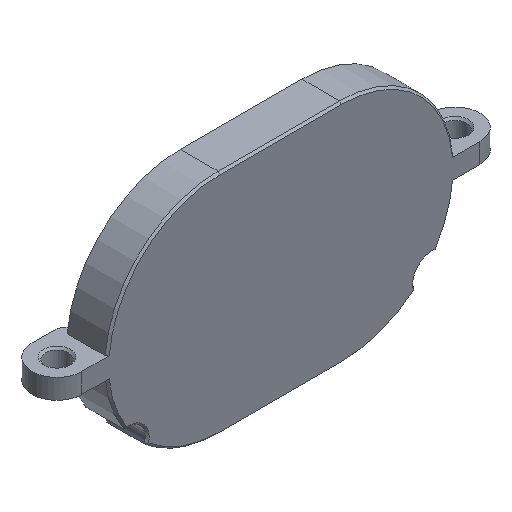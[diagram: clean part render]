
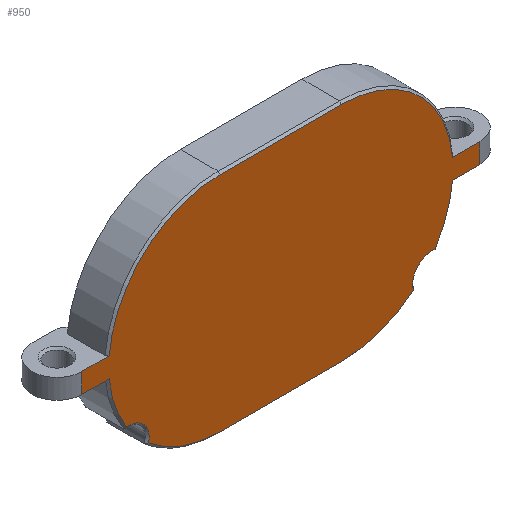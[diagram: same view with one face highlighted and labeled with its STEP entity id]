
A CAD part, isometric view. The second image highlights one B-rep face of the part: STEP entity #950.
In plain terms, the highlighted planar face has unit normal (0, -1, 0).
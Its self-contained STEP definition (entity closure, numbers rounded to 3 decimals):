
#50=PLANE('',#1072);
#89=FACE_OUTER_BOUND('',#147,.T.);
#147=EDGE_LOOP('',(#769,#770,#771,#772,#773,#774,#775,#776,#777,#778,#779,
#780,#781,#782,#783,#784));
#180=LINE('',#1441,#256);
#189=LINE('',#1470,#265);
#203=LINE('',#1532,#279);
#209=LINE('',#1567,#285);
#224=LINE('',#1632,#300);
#225=LINE('',#1637,#301);
#226=LINE('',#1639,#302);
#227=LINE('',#1640,#303);
#256=VECTOR('',#1129,10.);
#265=VECTOR('',#1154,10.);
#279=VECTOR('',#1216,10.);
#285=VECTOR('',#1244,10.);
#300=VECTOR('',#1307,10.);
#301=VECTOR('',#1316,10.);
#302=VECTOR('',#1317,10.);
#303=VECTOR('',#1318,10.);
#351=CIRCLE('',#1037,11.2);
#353=CIRCLE('',#1040,2.);
#354=CIRCLE('',#1042,11.2);
#357=CIRCLE('',#1047,11.2);
#359=CIRCLE('',#1050,2.);
#360=CIRCLE('',#1052,11.2);
#366=CIRCLE('',#1066,11.2);
#369=CIRCLE('',#1071,11.2);
#393=VERTEX_POINT('',#1438);
#394=VERTEX_POINT('',#1440);
#405=VERTEX_POINT('',#1467);
#406=VERTEX_POINT('',#1469);
#429=VERTEX_POINT('',#1529);
#430=VERTEX_POINT('',#1531);
#434=VERTEX_POINT('',#1541);
#436=VERTEX_POINT('',#1550);
#437=VERTEX_POINT('',#1557);
#439=VERTEX_POINT('',#1563);
#442=VERTEX_POINT('',#1571);
#444=VERTEX_POINT('',#1580);
#454=VERTEX_POINT('',#1620);
#455=VERTEX_POINT('',#1622);
#457=VERTEX_POINT('',#1628);
#459=VERTEX_POINT('',#1638);
#484=EDGE_CURVE('',#394,#393,#180,.T.);
#498=EDGE_CURVE('',#406,#405,#189,.T.);
#530=EDGE_CURVE('',#430,#429,#203,.T.);
#535=EDGE_CURVE('',#430,#434,#351,.T.);
#538=EDGE_CURVE('',#434,#436,#353,.T.);
#540=EDGE_CURVE('',#436,#437,#354,.T.);
#545=EDGE_CURVE('',#437,#439,#209,.T.);
#547=EDGE_CURVE('',#439,#442,#357,.T.);
#550=EDGE_CURVE('',#442,#444,#359,.T.);
#552=EDGE_CURVE('',#444,#393,#360,.T.);
#569=EDGE_CURVE('',#454,#455,#366,.T.);
#574=EDGE_CURVE('',#455,#457,#224,.T.);
#576=EDGE_CURVE('',#457,#405,#369,.T.);
#577=EDGE_CURVE('',#406,#429,#225,.T.);
#578=EDGE_CURVE('',#454,#459,#226,.T.);
#579=EDGE_CURVE('',#394,#459,#227,.T.);
#769=ORIENTED_EDGE('',*,*,#530,.T.);
#770=ORIENTED_EDGE('',*,*,#577,.F.);
#771=ORIENTED_EDGE('',*,*,#498,.T.);
#772=ORIENTED_EDGE('',*,*,#576,.F.);
#773=ORIENTED_EDGE('',*,*,#574,.F.);
#774=ORIENTED_EDGE('',*,*,#569,.F.);
#775=ORIENTED_EDGE('',*,*,#578,.T.);
#776=ORIENTED_EDGE('',*,*,#579,.F.);
#777=ORIENTED_EDGE('',*,*,#484,.T.);
#778=ORIENTED_EDGE('',*,*,#552,.F.);
#779=ORIENTED_EDGE('',*,*,#550,.F.);
#780=ORIENTED_EDGE('',*,*,#547,.F.);
#781=ORIENTED_EDGE('',*,*,#545,.F.);
#782=ORIENTED_EDGE('',*,*,#540,.F.);
#783=ORIENTED_EDGE('',*,*,#538,.F.);
#784=ORIENTED_EDGE('',*,*,#535,.F.);
#950=ADVANCED_FACE('',(#89),#50,.F.);
#1037=AXIS2_PLACEMENT_3D('',#1542,#1225,#1226);
#1040=AXIS2_PLACEMENT_3D('',#1551,#1231,#1232);
#1042=AXIS2_PLACEMENT_3D('',#1558,#1235,#1236);
#1047=AXIS2_PLACEMENT_3D('',#1572,#1249,#1250);
#1050=AXIS2_PLACEMENT_3D('',#1581,#1255,#1256);
#1052=AXIS2_PLACEMENT_3D('',#1587,#1259,#1260);
#1066=AXIS2_PLACEMENT_3D('',#1623,#1298,#1299);
#1071=AXIS2_PLACEMENT_3D('',#1635,#1312,#1313);
#1072=AXIS2_PLACEMENT_3D('',#1636,#1314,#1315);
#1129=DIRECTION('',(1.,0.,0.));
#1154=DIRECTION('',(-1.,0.,0.));
#1216=DIRECTION('',(1.,0.,0.));
#1225=DIRECTION('center_axis',(0.,1.,0.));
#1226=DIRECTION('ref_axis',(0.,0.,-1.));
#1231=DIRECTION('center_axis',(0.,-1.,0.));
#1232=DIRECTION('ref_axis',(-0.95,0.,-0.313));
#1235=DIRECTION('center_axis',(0.,1.,0.));
#1236=DIRECTION('ref_axis',(0.651,0.,-0.759));
#1244=DIRECTION('',(-1.,0.,0.));
#1249=DIRECTION('center_axis',(0.,1.,0.));
#1250=DIRECTION('ref_axis',(0.,0.,-1.));
#1255=DIRECTION('center_axis',(0.,-1.,0.));
#1256=DIRECTION('ref_axis',(-0.196,0.,0.981));
#1259=DIRECTION('center_axis',(0.,1.,0.));
#1260=DIRECTION('ref_axis',(-0.832,0.,-0.555));
#1298=DIRECTION('center_axis',(0.,1.,0.));
#1299=DIRECTION('ref_axis',(-0.832,0.,-0.555));
#1307=DIRECTION('',(1.,0.,0.));
#1312=DIRECTION('center_axis',(0.,1.,0.));
#1313=DIRECTION('ref_axis',(0.,0.,1.));
#1314=DIRECTION('center_axis',(0.,1.,0.));
#1315=DIRECTION('ref_axis',(0.,0.,1.));
#1316=DIRECTION('',(0.,0.,-1.));
#1317=DIRECTION('',(-1.,0.,0.));
#1318=DIRECTION('',(0.,0.,1.));
#1438=CARTESIAN_POINT('',(-17.271,0.,-19.327));
#1440=CARTESIAN_POINT('',(-20.016,0.,-19.327));
#1441=CARTESIAN_POINT('',(-22.516,0.,-19.327));
#1467=CARTESIAN_POINT('',(17.271,0.,-17.327));
#1469=CARTESIAN_POINT('',(20.016,0.,-17.327));
#1470=CARTESIAN_POINT('',(22.516,0.,-17.327));
#1529=CARTESIAN_POINT('',(20.016,0.,-19.327));
#1531=CARTESIAN_POINT('',(17.271,0.,-19.327));
#1532=CARTESIAN_POINT('',(16.065,0.,-19.327));
#1541=CARTESIAN_POINT('',(15.506,0.,-24.43));
#1542=CARTESIAN_POINT('Origin',(6.116,0.,-18.327));
#1550=CARTESIAN_POINT('',(13.312,0.,-26.909));
#1551=CARTESIAN_POINT('Origin',(15.25,0.,-26.414));
#1557=CARTESIAN_POINT('',(6.116,0.,-29.527));
#1558=CARTESIAN_POINT('Origin',(6.116,0.,-18.327));
#1563=CARTESIAN_POINT('',(-6.116,0.,-29.527));
#1567=CARTESIAN_POINT('',(3.058,0.,-29.527));
#1571=CARTESIAN_POINT('',(-13.312,0.,-26.909));
#1572=CARTESIAN_POINT('Origin',(-6.116,0.,-18.327));
#1580=CARTESIAN_POINT('',(-15.506,0.,-24.43));
#1581=CARTESIAN_POINT('Origin',(-15.25,0.,-26.414));
#1587=CARTESIAN_POINT('Origin',(-6.116,0.,-18.327));
#1620=CARTESIAN_POINT('',(-17.271,0.,-17.327));
#1622=CARTESIAN_POINT('',(-6.116,0.,-7.127));
#1623=CARTESIAN_POINT('Origin',(-6.116,0.,-18.327));
#1628=CARTESIAN_POINT('',(6.116,0.,-7.127));
#1632=CARTESIAN_POINT('',(-3.058,0.,-7.127));
#1635=CARTESIAN_POINT('Origin',(6.116,0.,-18.327));
#1636=CARTESIAN_POINT('Origin',(0.,0.,-18.327));
#1637=CARTESIAN_POINT('',(20.016,0.,-17.827));
#1638=CARTESIAN_POINT('',(-20.016,0.,-17.327));
#1639=CARTESIAN_POINT('',(-16.065,0.,-17.327));
#1640=CARTESIAN_POINT('',(-20.016,0.,-18.827));
